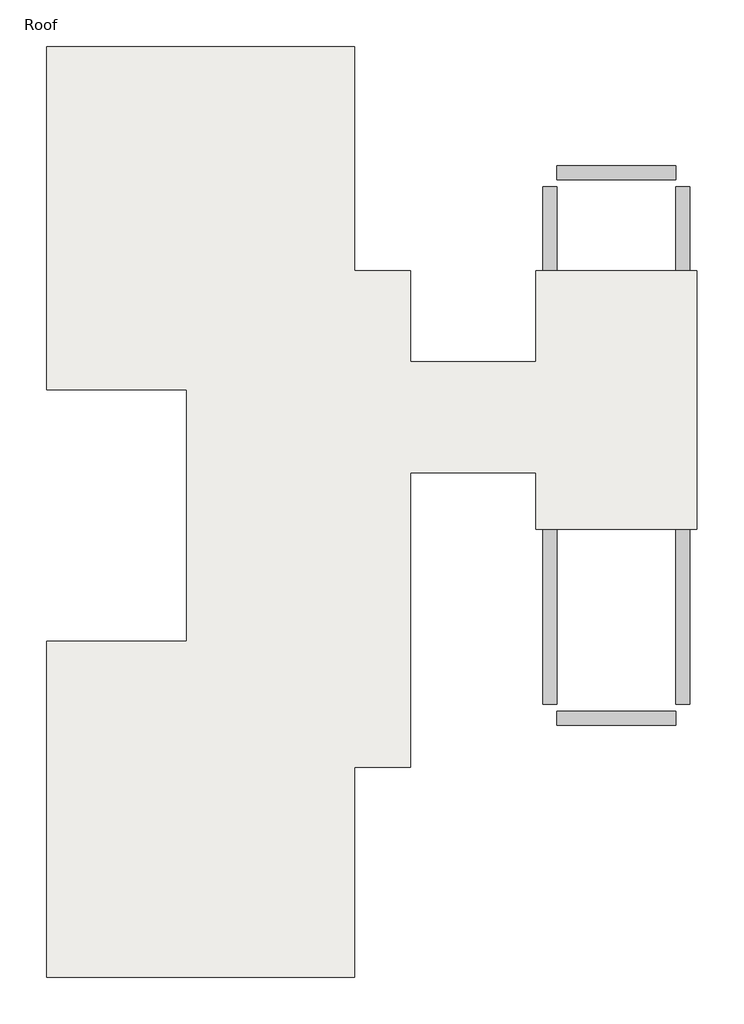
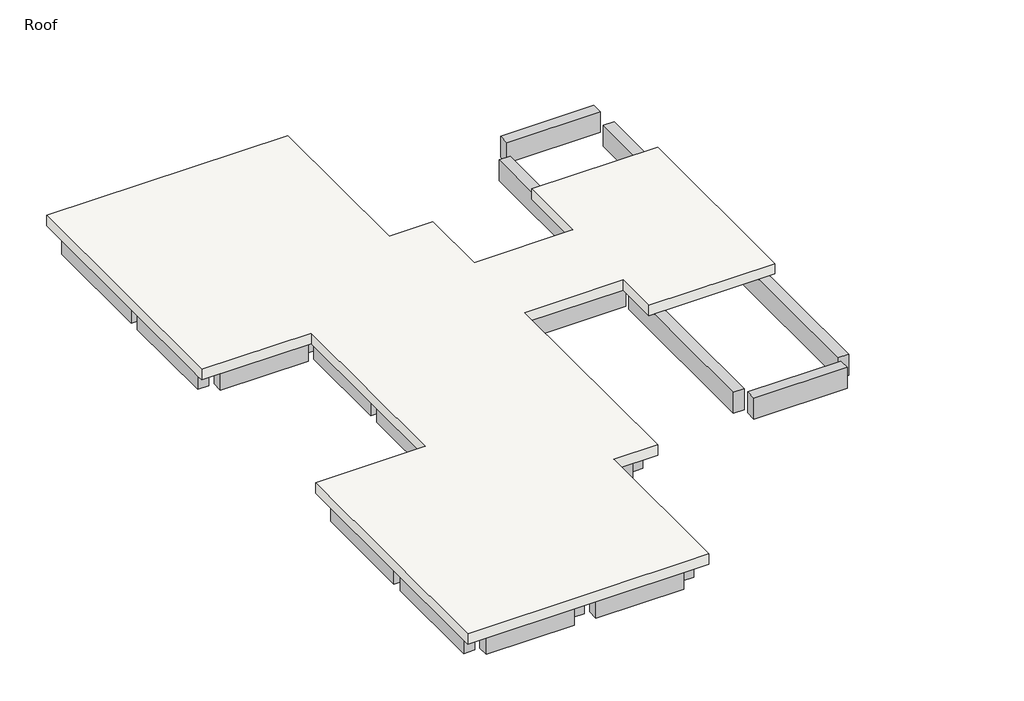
# One storey: 46 beams, 1 slab.
"""IFC4 building model written with IfcOpenShell, lengths in millimetres."""

from ifc_helpers import new_model, si_unit, frame, origin, place, context, project, spatial, polyline, outline, extrude, faceted_brep, element, save

model = new_model("IFC4")

# Units and contexts
model_context = context("Model", 3, world=origin())
ifc_project = project(units=[si_unit("LENGTHUNIT", "METRE", prefix="MILLI")], contexts=[model_context])

# Site, building, storey
site = spatial("IfcSite", under=ifc_project)
building = spatial("IfcBuilding", under=site)
storey = spatial("IfcBuildingStorey", under=building, Name="Roof", Elevation=7620.0)

# Beams
placement = place(None, origin())
element("IfcBeam", 1, ObjectType="Concrete-Rectangular Beam : 12 x 24", at=placement, inside=storey, context=model_context, shape_type="SweptSolid", body=[
    extrude(outline(polyline([(-15067.9554735, 14342.1867088), (-15067.9554735, 14646.9867088), (-12629.5554735, 14646.9867088), (-12629.5554735, 14342.1867088), (-15067.9554735, 14342.1867088)])), frame((0.0, 0.0, 6705.6), z_axis=(0.0, 0.0, 1.0), x_axis=(1.0, 0.0, 0.0)), (0.0, 0.0, 1.0), 609.6),
])
element("IfcBeam", 2, ObjectType="Concrete-Rectangular Beam : 12 x 24", at=placement, inside=storey, context=model_context, shape_type="SweptSolid", body=[
    extrude(outline(polyline([(-12019.9554735, 14342.1867088), (-12019.9554735, 14646.9867088), (-9581.5554735, 14646.9867088), (-9581.5554735, 14342.1867088), (-12019.9554735, 14342.1867088)])), frame((0.0, 0.0, 6705.6), z_axis=(0.0, 0.0, 1.0), x_axis=(1.0, 0.0, 0.0)), (0.0, 0.0, 1.0), 609.6),
])
element("IfcBeam", 3, ObjectType="Concrete-Rectangular Beam : 12 x 24", at=placement, inside=storey, context=model_context, shape_type="SweptSolid", body=[
    extrude(outline(polyline([(-9429.1554735, 14342.1867088), (-9124.3554735, 14342.1867088), (-9124.3554735, 10989.3867088), (-9429.1554735, 10989.3867088), (-9429.1554735, 14342.1867088)])), frame((0.0, 0.0, 6705.6), z_axis=(0.0, 0.0, 1.0), x_axis=(1.0, 0.0, 0.0)), (0.0, 0.0, 1.0), 609.6),
])
element("IfcBeam", 4, ObjectType="Concrete-Rectangular Beam : 12 x 24", at=placement, inside=storey, context=model_context, shape_type="SweptSolid", body=[
    extrude(outline(polyline([(-7905.1554735, 7788.9867088), (-8209.9554735, 7788.9867088), (-8209.9554735, 9465.3867088), (-7905.1554735, 9465.3867088), (-7905.1554735, 7788.9867088)])), frame((0.0, 0.0, 6705.6), z_axis=(0.0, 0.0, 1.0), x_axis=(1.0, 0.0, 0.0)), (0.0, 0.0, 1.0), 609.6),
])
element("IfcBeam", 5, ObjectType="Concrete-Rectangular Beam : 12 x 24", at=placement, inside=storey, context=model_context, shape_type="Brep", body=[
    faceted_brep([(-9429.1554735, 9770.1867088, 7315.2), (-9429.1554735, 9465.3867088, 7315.2), (-8362.3554735, 9465.3867088, 7315.2), (-8362.3554735, 9770.1867088, 7315.2), (-9124.3554735, 9770.1867088, 7315.2), (-9429.1554735, 9770.1867088, 6705.6), (-8362.3554735, 9770.1867088, 6705.6), (-9124.3554735, 9770.1867088, 6705.6), (-9429.1554735, 9465.3867088, 6705.6), (-8362.3554735, 9465.3867088, 6705.6)], [[[0, 1, 2, 3, 4]], [[5, 0, 4, 3, 6, 7]], [[8, 5, 7, 6, 9]], [[1, 8, 9, 2]], [[3, 2, 9, 6]], [[1, 0, 5, 8]]]),
])
element("IfcBeam", 6, ObjectType="Concrete-Rectangular Beam : 12 x 24", at=placement, inside=storey, context=model_context, shape_type="Brep", body=[
    faceted_brep([(-7905.1554735, 7484.1867088, 7315.2), (-8209.9554735, 7484.1867088, 7315.2), (-8209.9554735, 4740.9867088, 7315.2), (-7905.1554735, 4740.9867088, 7315.2), (-7905.1554735, 5655.3867088, 7315.2), (-7905.1554735, 5960.1867088, 7315.2), (-8209.9554735, 7484.1867088, 6705.6), (-8209.9554735, 4740.9867088, 6705.6), (-7905.1554735, 7484.1867088, 6705.6), (-7905.1554735, 5960.1867088, 6705.6), (-7905.1554735, 5655.3867088, 6705.6), (-7905.1554735, 4740.9867088, 6705.6)], [[[0, 1, 2, 3, 4, 5]], [[1, 6, 7, 2]], [[6, 8, 9, 10, 11, 7]], [[8, 0, 5, 4, 3, 11, 10, 9]], [[6, 1, 0, 8]], [[3, 2, 7, 11]]]),
])
element("IfcBeam", 7, ObjectType="Concrete-Rectangular Beam : 12 x 24", at=placement, inside=storey, context=model_context, shape_type="SweptSolid", body=[
    extrude(outline(polyline([(-8209.9554735, 4436.1867088), (-7905.1554735, 4436.1867088), (-7905.1554735, 1692.9867088), (-8209.9554735, 1692.9867088), (-8209.9554735, 4436.1867088)])), frame((0.0, 0.0, 6705.6), z_axis=(0.0, 0.0, 1.0), x_axis=(1.0, 0.0, 0.0)), (0.0, 0.0, 1.0), 609.6),
])
element("IfcBeam", 8, ObjectType="Concrete-Rectangular Beam : 12 x 24", at=placement, inside=storey, context=model_context, shape_type="SweptSolid", body=[
    extrude(outline(polyline([(-8209.9554735, 1388.1867088), (-7905.1554735, 1388.1867088), (-7905.1554735, -440.6132912), (-8209.9554735, -440.6132912), (-8209.9554735, 1388.1867088)])), frame((0.0, 0.0, 6705.6), z_axis=(0.0, 0.0, 1.0), x_axis=(1.0, 0.0, 0.0)), (0.0, 0.0, 1.0), 609.6),
])
element("IfcBeam", 9, ObjectType="Concrete-Rectangular Beam : 12 x 24", at=placement, inside=storey, context=model_context, shape_type="Brep", body=[
    faceted_brep([(-9429.1554735, -440.6132912, 7315.2), (-9429.1554735, -745.4132912, 7315.2), (-9124.3554735, -745.4132912, 7315.2), (-8362.3554735, -745.4132912, 7315.2), (-8362.3554735, -440.6132912, 7315.2), (-9429.1554735, -440.6132912, 6705.6), (-8362.3554735, -440.6132912, 6705.6), (-9429.1554735, -745.4132912, 6705.6), (-8362.3554735, -745.4132912, 6705.6), (-9124.3554735, -745.4132912, 6705.6)], [[[0, 1, 2, 3, 4]], [[5, 0, 4, 6]], [[7, 5, 6, 8, 9]], [[1, 7, 9, 8, 3, 2]], [[4, 3, 8, 6]], [[1, 0, 5, 7]]]),
])
element("IfcBeam", 10, ObjectType="Concrete-Rectangular Beam : 12 x 24", at=placement, inside=storey, context=model_context, shape_type="SweptSolid", body=[
    extrude(outline(polyline([(-9429.1554735, -745.4132912), (-9124.3554735, -745.4132912), (-9124.3554735, -1659.8132912), (-9429.1554735, -1659.8132912), (-9429.1554735, -745.4132912)])), frame((0.0, 0.0, 6705.6), z_axis=(0.0, 0.0, 1.0), x_axis=(1.0, 0.0, 0.0)), (0.0, 0.0, 1.0), 609.6),
])
element("IfcBeam", 11, ObjectType="Concrete-Rectangular Beam : 12 x 24", at=placement, inside=storey, context=model_context, shape_type="SweptSolid", body=[
    extrude(outline(polyline([(-9429.1554735, -1964.6132912), (-9124.3554735, -1964.6132912), (-9124.3554735, -5012.6132912), (-9429.1554735, -5012.6132912), (-9429.1554735, -1964.6132912)])), frame((0.0, 0.0, 6705.6), z_axis=(0.0, 0.0, 1.0), x_axis=(1.0, 0.0, 0.0)), (0.0, 0.0, 1.0), 609.6),
])
element("IfcBeam", 12, ObjectType="Concrete-Rectangular Beam : 12 x 24", at=placement, inside=storey, context=model_context, shape_type="SweptSolid", body=[
    extrude(outline(polyline([(-12019.9554735, -5317.4132912), (-12019.9554735, -5012.6132912), (-9581.5554735, -5012.6132912), (-9581.5554735, -5317.4132912), (-12019.9554735, -5317.4132912)])), frame((0.0, 0.0, 6705.6), z_axis=(0.0, 0.0, 1.0), x_axis=(1.0, 0.0, 0.0)), (0.0, 0.0, 1.0), 609.6),
])
element("IfcBeam", 13, ObjectType="Concrete-Rectangular Beam : 12 x 24", at=placement, inside=storey, context=model_context, shape_type="SweptSolid", body=[
    extrude(outline(polyline([(-12629.5554735, -5012.6132912), (-12629.5554735, -5317.4132912), (-15067.9554735, -5317.4132912), (-15067.9554735, -5012.6132912), (-12629.5554735, -5012.6132912)])), frame((0.0, 0.0, 6705.6), z_axis=(0.0, 0.0, 1.0), x_axis=(1.0, 0.0, 0.0)), (0.0, 0.0, 1.0), 609.6),
])
element("IfcBeam", 14, ObjectType="Concrete-Rectangular Beam : 12 x 24", at=placement, inside=storey, context=model_context, shape_type="SweptSolid", body=[
    extrude(outline(polyline([(-15220.3554735, -5012.6132912), (-15525.1554735, -5012.6132912), (-15525.1554735, -1964.6132912), (-15220.3554735, -1964.6132912), (-15220.3554735, -5012.6132912)])), frame((0.0, 0.0, 6705.6), z_axis=(0.0, 0.0, 1.0), x_axis=(1.0, 0.0, 0.0)), (0.0, 0.0, 1.0), 609.6),
])
element("IfcBeam", 15, ObjectType="Concrete-Rectangular Beam : 12 x 24", at=placement, inside=storey, context=model_context, shape_type="SweptSolid", body=[
    extrude(outline(polyline([(-15220.3554735, -1659.8132912), (-15525.1554735, -1659.8132912), (-15525.1554735, 1388.1867088), (-15220.3554735, 1388.1867088), (-15220.3554735, -1659.8132912)])), frame((0.0, 0.0, 6705.6), z_axis=(0.0, 0.0, 1.0), x_axis=(1.0, 0.0, 0.0)), (0.0, 0.0, 1.0), 609.6),
])
element("IfcBeam", 16, ObjectType="Concrete-Rectangular Beam : 12 x 24", at=placement, inside=storey, context=model_context, shape_type="SweptSolid", body=[
    extrude(outline(polyline([(-15525.1554735, 14342.1867088), (-15220.3554735, 14342.1867088), (-15220.3554735, 10989.3867088), (-15525.1554735, 10989.3867088), (-15525.1554735, 14342.1867088)])), frame((0.0, 0.0, 6705.6), z_axis=(0.0, 0.0, 1.0), x_axis=(1.0, 0.0, 0.0)), (0.0, 0.0, 1.0), 609.6),
])
element("IfcBeam", 17, ObjectType="Concrete-Rectangular Beam : 12 x 24", at=placement, inside=storey, context=model_context, shape_type="SweptSolid", body=[
    extrude(outline(polyline([(-12477.1554735, 14342.1867088), (-12172.3554735, 14342.1867088), (-12172.3554735, 10989.3867088), (-12477.1554735, 10989.3867088), (-12477.1554735, 14342.1867088)])), frame((0.0, 0.0, 6705.6), z_axis=(0.0, 0.0, 1.0), x_axis=(1.0, 0.0, 0.0)), (0.0, 0.0, 1.0), 609.6),
])
element("IfcBeam", 18, ObjectType="Concrete-Rectangular Beam : 12 x 24", at=placement, inside=storey, context=model_context, shape_type="SweptSolid", body=[
    extrude(outline(polyline([(-15067.9554735, 10684.5867088), (-15067.9554735, 10989.3867088), (-12629.5554735, 10989.3867088), (-12629.5554735, 10684.5867088), (-15067.9554735, 10684.5867088)])), frame((0.0, 0.0, 6705.6), z_axis=(0.0, 0.0, 1.0), x_axis=(1.0, 0.0, 0.0)), (0.0, 0.0, 1.0), 609.6),
])
element("IfcBeam", 19, ObjectType="Concrete-Rectangular Beam : 12 x 24", at=placement, inside=storey, context=model_context, shape_type="SweptSolid", body=[
    extrude(outline(polyline([(-12477.1554735, 10836.9867088), (-12172.3554735, 10836.9867088), (-12172.3554735, 7788.9867088), (-12477.1554735, 7788.9867088), (-12477.1554735, 10836.9867088)])), frame((0.0, 0.0, 6705.6), z_axis=(0.0, 0.0, 1.0), x_axis=(1.0, 0.0, 0.0)), (0.0, 0.0, 1.0), 609.6),
])
element("IfcBeam", 20, ObjectType="Concrete-Rectangular Beam : 12 x 24", at=placement, inside=storey, context=model_context, shape_type="SweptSolid", body=[
    extrude(outline(polyline([(-12477.1554735, 7484.1867088), (-12172.3554735, 7484.1867088), (-12172.3554735, 4740.9867088), (-12477.1554735, 4740.9867088), (-12477.1554735, 7484.1867088)])), frame((0.0, 0.0, 6705.6), z_axis=(0.0, 0.0, 1.0), x_axis=(1.0, 0.0, 0.0)), (0.0, 0.0, 1.0), 609.6),
])
element("IfcBeam", 21, ObjectType="Concrete-Rectangular Beam : 12 x 24", at=placement, inside=storey, context=model_context, shape_type="SweptSolid", body=[
    extrude(outline(polyline([(-12477.1554735, 4436.1867088), (-12172.3554735, 4436.1867088), (-12172.3554735, 1692.9867088), (-12477.1554735, 1692.9867088), (-12477.1554735, 4436.1867088)])), frame((0.0, 0.0, 6705.6), z_axis=(0.0, 0.0, 1.0), x_axis=(1.0, 0.0, 0.0)), (0.0, 0.0, 1.0), 609.6),
])
element("IfcBeam", 22, ObjectType="Concrete-Rectangular Beam : 12 x 24", at=placement, inside=storey, context=model_context, shape_type="SweptSolid", body=[
    extrude(outline(polyline([(-12477.1554735, 1388.1867088), (-12172.3554735, 1388.1867088), (-12172.3554735, -1659.8132912), (-12477.1554735, -1659.8132912), (-12477.1554735, 1388.1867088)])), frame((0.0, 0.0, 6705.6), z_axis=(0.0, 0.0, 1.0), x_axis=(1.0, 0.0, 0.0)), (0.0, 0.0, 1.0), 609.6),
])
element("IfcBeam", 23, ObjectType="Concrete-Rectangular Beam : 12 x 24", at=placement, inside=storey, context=model_context, shape_type="SweptSolid", body=[
    extrude(outline(polyline([(-12172.3554735, -5012.6132912), (-12477.1554735, -5012.6132912), (-12477.1554735, -1964.6132912), (-12172.3554735, -1964.6132912), (-12172.3554735, -5012.6132912)])), frame((0.0, 0.0, 6705.6), z_axis=(0.0, 0.0, 1.0), x_axis=(1.0, 0.0, 0.0)), (0.0, 0.0, 1.0), 609.6),
])
element("IfcBeam", 24, ObjectType="Concrete-Rectangular Beam : 12 x 24", at=placement, inside=storey, context=model_context, shape_type="SweptSolid", body=[
    extrude(outline(polyline([(-15525.1554735, 10684.5867088), (-15220.3554735, 10684.5867088), (-15220.3554735, 7788.9867088), (-15525.1554735, 7788.9867088), (-15525.1554735, 10684.5867088)])), frame((0.0, 0.0, 6705.6), z_axis=(0.0, 0.0, 1.0), x_axis=(1.0, 0.0, 0.0)), (0.0, 0.0, 1.0), 609.6),
])
element("IfcBeam", 25, ObjectType="Concrete-Rectangular Beam : 12 x 24", at=placement, inside=storey, context=model_context, shape_type="SweptSolid", body=[
    extrude(outline(polyline([(-15067.9554735, 7484.1867088), (-15067.9554735, 7788.9867088), (-12629.5554735, 7788.9867088), (-12629.5554735, 7484.1867088), (-15067.9554735, 7484.1867088)])), frame((0.0, 0.0, 6705.6), z_axis=(0.0, 0.0, 1.0), x_axis=(1.0, 0.0, 0.0)), (0.0, 0.0, 1.0), 609.6),
])
element("IfcBeam", 26, ObjectType="Concrete-Rectangular Beam : 12 x 24", at=placement, inside=storey, context=model_context, shape_type="SweptSolid", body=[
    extrude(outline(polyline([(-12019.9554735, 1388.1867088), (-12019.9554735, 1692.9867088), (-8362.3554735, 1692.9867088), (-8362.3554735, 1388.1867088), (-12019.9554735, 1388.1867088)])), frame((0.0, 0.0, 6705.6), z_axis=(0.0, 0.0, 1.0), x_axis=(1.0, 0.0, 0.0)), (0.0, 0.0, 1.0), 609.6),
])
element("IfcBeam", 27, ObjectType="Concrete-Rectangular Beam : 12 x 24", at=placement, inside=storey, context=model_context, shape_type="SweptSolid", body=[
    extrude(outline(polyline([(-4552.3554735, 5655.3867088), (-4552.3554735, 5960.1867088), (-1961.5554735, 5960.1867088), (-1961.5554735, 5655.3867088), (-4552.3554735, 5655.3867088)])), frame((0.0, 0.0, 6705.6), z_axis=(0.0, 0.0, 1.0), x_axis=(1.0, 0.0, 0.0)), (0.0, 0.0, 1.0), 609.6),
])
element("IfcBeam", 28, ObjectType="Concrete-Rectangular Beam : 12 x 24", at=placement, inside=storey, context=model_context, shape_type="SweptSolid", body=[
    extrude(outline(polyline([(-4857.1554735, 7788.9867088), (-4857.1554735, 7484.1867088), (-7752.7554735, 7484.1867088), (-7752.7554735, 7788.9867088), (-4857.1554735, 7788.9867088)])), frame((0.0, 0.0, 6705.6), z_axis=(0.0, 0.0, 1.0), x_axis=(1.0, 0.0, 0.0)), (0.0, 0.0, 1.0), 609.6),
])
element("IfcBeam", 29, ObjectType="Concrete-Rectangular Beam : 12 x 24", at=placement, inside=storey, context=model_context, shape_type="SweptSolid", body=[
    extrude(outline(polyline([(-4857.1554735, 5960.1867088), (-4857.1554735, 5655.3867088), (-7905.1554735, 5655.3867088), (-7905.1554735, 5960.1867088), (-4857.1554735, 5960.1867088)])), frame((0.0, 0.0, 6705.6), z_axis=(0.0, 0.0, 1.0), x_axis=(1.0, 0.0, 0.0)), (0.0, 0.0, 1.0), 609.6),
])
element("IfcBeam", 30, ObjectType="Concrete-Rectangular Beam : 12 x 24", at=placement, inside=storey, context=model_context, shape_type="SweptSolid", body=[
    extrude(outline(polyline([(-4552.3554735, 7484.1867088), (-4552.3554735, 7788.9867088), (-1961.5554735, 7788.9867088), (-1961.5554735, 7484.1867088), (-4552.3554735, 7484.1867088)])), frame((0.0, 0.0, 6705.6), z_axis=(0.0, 0.0, 1.0), x_axis=(1.0, 0.0, 0.0)), (0.0, 0.0, 1.0), 609.6),
])
element("IfcBeam", 31, ObjectType="Concrete-Rectangular Beam : 12 x 24", at=placement, inside=storey, context=model_context, shape_type="SweptSolid", body=[
    extrude(outline(polyline([(-12477.1554735, 10684.5867088), (-12172.3554735, 10684.5867088), (-12172.3554735, 7788.9867088), (-12477.1554735, 7788.9867088), (-12477.1554735, 10684.5867088)])), frame((0.0, 0.0, 6705.6), z_axis=(0.0, 0.0, 1.0), x_axis=(1.0, 0.0, 0.0)), (0.0, 0.0, 1.0), 609.6),
])
element("IfcBeam", 32, ObjectType="Concrete-Rectangular Beam : 12 x 24", at=placement, inside=storey, context=model_context, shape_type="SweptSolid", body=[
    extrude(outline(polyline([(-12019.9554735, 10684.5867088), (-12019.9554735, 10989.3867088), (-9581.5554735, 10989.3867088), (-9581.5554735, 10684.5867088), (-12019.9554735, 10684.5867088)])), frame((0.0, 0.0, 6705.6), z_axis=(0.0, 0.0, 1.0), x_axis=(1.0, 0.0, 0.0)), (0.0, 0.0, 1.0), 609.6),
])
element("IfcBeam", 33, ObjectType="Concrete-Rectangular Beam : 12 x 24", at=placement, inside=storey, context=model_context, shape_type="SweptSolid", body=[
    extrude(outline(polyline([(-12629.5554735, -1659.8132912), (-12629.5554735, -1964.6132912), (-15067.9554735, -1964.6132912), (-15067.9554735, -1659.8132912), (-12629.5554735, -1659.8132912)])), frame((0.0, 0.0, 6705.6), z_axis=(0.0, 0.0, 1.0), x_axis=(1.0, 0.0, 0.0)), (0.0, 0.0, 1.0), 609.6),
])
element("IfcBeam", 34, ObjectType="Concrete-Rectangular Beam : 12 x 24", at=placement, inside=storey, context=model_context, shape_type="SweptSolid", body=[
    extrude(outline(polyline([(-12629.5554735, 1692.9867088), (-12629.5554735, 1388.1867088), (-15067.9554735, 1388.1867088), (-15067.9554735, 1692.9867088), (-12629.5554735, 1692.9867088)])), frame((0.0, 0.0, 6705.6), z_axis=(0.0, 0.0, 1.0), x_axis=(1.0, 0.0, 0.0)), (0.0, 0.0, 1.0), 609.6),
])
element("IfcBeam", 35, ObjectType="Concrete-Rectangular Beam : 12 x 24", at=placement, inside=storey, context=model_context, shape_type="SweptSolid", body=[
    extrude(outline(polyline([(-12019.9554735, -1964.6132912), (-12019.9554735, -1659.8132912), (-9581.5554735, -1659.8132912), (-9581.5554735, -1964.6132912), (-12019.9554735, -1964.6132912)])), frame((0.0, 0.0, 6705.6), z_axis=(0.0, 0.0, 1.0), x_axis=(1.0, 0.0, 0.0)), (0.0, 0.0, 1.0), 609.6),
])
element("IfcBeam", 36, ObjectType="Concrete-Rectangular Beam : 12 x 24", at=placement, inside=storey, context=model_context, shape_type="SweptSolid", body=[
    extrude(outline(polyline([(-9124.3554735, 9770.1867088), (-9429.1554735, 9770.1867088), (-9429.1554735, 10684.5867088), (-9124.3554735, 10684.5867088), (-9124.3554735, 9770.1867088)])), frame((0.0, 0.0, 6705.6), z_axis=(0.0, 0.0, 1.0), x_axis=(1.0, 0.0, 0.0)), (0.0, 0.0, 1.0), 609.6),
])
element("IfcBeam", 37, ObjectType="Concrete-Rectangular Beam : 12 x 24", at=placement, inside=storey, context=model_context, shape_type="SweptSolid", body=[
    extrude(outline(polyline([(-8362.3554735, 7788.9867088), (-8362.3554735, 7484.1867088), (-12019.9554735, 7484.1867088), (-12019.9554735, 7788.9867088), (-8362.3554735, 7788.9867088)])), frame((0.0, 0.0, 6705.6), z_axis=(0.0, 0.0, 1.0), x_axis=(1.0, 0.0, 0.0)), (0.0, 0.0, 1.0), 609.6),
])
element("IfcBeam", 38, ObjectType="Concrete-Rectangular Beam : 12 x 24", at=placement, inside=storey, context=model_context, shape_type="SweptSolid", body=[
    extrude(outline(polyline([(-12019.9554735, 4436.1867088), (-12019.9554735, 4740.9867088), (-8362.3554735, 4740.9867088), (-8362.3554735, 4436.1867088), (-12019.9554735, 4436.1867088)])), frame((0.0, 0.0, 6705.6), z_axis=(0.0, 0.0, 1.0), x_axis=(1.0, 0.0, 0.0)), (0.0, 0.0, 1.0), 609.6),
])
element("IfcBeam", 39, ObjectType="Concrete-Rectangular Beam : 12 x 24", at=placement, inside=storey, context=model_context, shape_type="SweptSolid", body=[
    extrude(outline(polyline([(-4857.1554735, 5502.9867088), (-4552.3554735, 5502.9867088), (-4552.3554735, 473.7867088), (-4857.1554735, 473.7867088), (-4857.1554735, 5502.9867088)])), frame((0.0, 0.0, 6705.6), z_axis=(0.0, 0.0, 1.0), x_axis=(1.0, 0.0, 0.0)), (0.0, 0.0, 1.0), 609.6),
])
element("IfcBeam", 40, ObjectType="Concrete-Rectangular Beam : 12 x 24", at=placement, inside=storey, context=model_context, shape_type="SweptSolid", body=[
    extrude(outline(polyline([(-4552.3554735, 16.5867088), (-4552.3554735, 321.3867088), (-1961.5554735, 321.3867088), (-1961.5554735, 16.5867088), (-4552.3554735, 16.5867088)])), frame((0.0, 0.0, 6705.6), z_axis=(0.0, 0.0, 1.0), x_axis=(1.0, 0.0, 0.0)), (0.0, 0.0, 1.0), 609.6),
])
element("IfcBeam", 41, ObjectType="Concrete-Rectangular Beam : 12 x 24", at=placement, inside=storey, context=model_context, shape_type="SweptSolid", body=[
    extrude(outline(polyline([(-1656.7554735, 473.7867088), (-1961.5554735, 473.7867088), (-1961.5554735, 5502.9867088), (-1656.7554735, 5502.9867088), (-1656.7554735, 473.7867088)])), frame((0.0, 0.0, 6705.6), z_axis=(0.0, 0.0, 1.0), x_axis=(1.0, 0.0, 0.0)), (0.0, 0.0, 1.0), 609.6),
])
element("IfcBeam", 42, ObjectType="Concrete-Rectangular Beam : 12 x 24", at=placement, inside=storey, context=model_context, shape_type="SweptSolid", body=[
    extrude(outline(polyline([(-4857.1554735, 11751.3867088), (-4552.3554735, 11751.3867088), (-4552.3554735, 7941.3867088), (-4857.1554735, 7941.3867088), (-4857.1554735, 11751.3867088)])), frame((0.0, 0.0, 6705.6), z_axis=(0.0, 0.0, 1.0), x_axis=(1.0, 0.0, 0.0)), (0.0, 0.0, 1.0), 609.6),
])
element("IfcBeam", 43, ObjectType="Concrete-Rectangular Beam : 12 x 24", at=placement, inside=storey, context=model_context, shape_type="SweptSolid", body=[
    extrude(outline(polyline([(-4552.3554735, 11903.7867088), (-4552.3554735, 12208.5867088), (-1961.5554735, 12208.5867088), (-1961.5554735, 11903.7867088), (-4552.3554735, 11903.7867088)])), frame((0.0, 0.0, 7010.4), z_axis=(0.0, 0.0, 1.0), x_axis=(1.0, 0.0, 0.0)), (0.0, 0.0, 1.0), 609.6),
])
element("IfcBeam", 44, ObjectType="Concrete-Rectangular Beam : 12 x 24", at=placement, inside=storey, context=model_context, shape_type="SweptSolid", body=[
    extrude(outline(polyline([(-1961.5554735, 11751.3867088), (-1656.7554735, 11751.3867088), (-1656.7554735, 7941.3867088), (-1961.5554735, 7941.3867088), (-1961.5554735, 11751.3867088)])), frame((0.0, 0.0, 6705.6), z_axis=(0.0, 0.0, 1.0), x_axis=(1.0, 0.0, 0.0)), (0.0, 0.0, 1.0), 609.6),
])
element("IfcBeam", 45, ObjectType="Concrete-Rectangular Beam : 12 x 24", at=placement, inside=storey, context=model_context, shape_type="SweptSolid", body=[
    extrude(outline(polyline([(-4857.1554735, 7331.7867088), (-4552.3554735, 7331.7867088), (-4552.3554735, 6112.5867088), (-4857.1554735, 6112.5867088), (-4857.1554735, 7331.7867088)])), frame((0.0, 0.0, 6705.6), z_axis=(0.0, 0.0, 1.0), x_axis=(1.0, 0.0, 0.0)), (0.0, 0.0, 1.0), 609.6),
])
element("IfcBeam", 46, ObjectType="Concrete-Rectangular Beam : 12 x 24", at=placement, inside=storey, context=model_context, shape_type="SweptSolid", body=[
    extrude(outline(polyline([(-1961.5554735, 7331.7867088), (-1656.7554735, 7331.7867088), (-1656.7554735, 6112.5867088), (-1961.5554735, 6112.5867088), (-1961.5554735, 7331.7867088)])), frame((0.0, 0.0, 6705.6), z_axis=(0.0, 0.0, 1.0), x_axis=(1.0, 0.0, 0.0)), (0.0, 0.0, 1.0), 609.6),
])

# Slab
element("IfcSlab", 47, ObjectType="Generic - 12\"", at=placement, inside=storey, context=model_context, shape_type="Brep", body=[
    faceted_brep([(-8971.9554735, 14799.3867088, 7315.2), (-8971.9554735, 14646.9867088, 7315.2), (-8971.9554735, 14342.1867088, 7315.2), (-8971.9554735, 10989.3867088, 7315.2), (-8971.9554735, 10684.5867088, 7315.2), (-8971.9554735, 9922.5867088, 7315.2), (-7752.7554735, 9922.5867088, 7315.2), (-7752.7554735, 9770.1867088, 7315.2), (-7752.7554735, 9465.3867088, 7315.2), (-7752.7554735, 7941.3867088, 7315.2), (-5009.5554735, 7941.3867088, 7315.2), (-5009.5554735, 9922.5867088, 7315.2), (-1504.3554735, 9922.5867088, 7315.2), (-1504.3554735, 4283.7867088, 7315.2), (-5009.5554735, 4283.7867088, 7315.2), (-5009.5554735, 5516.5265407, 7315.2), (-7752.7554735, 5516.5265407, 7315.2), (-7752.7554735, 4740.9867088, 7315.2), (-7752.7554735, 4436.1867088, 7315.2), (-7752.7554735, 1692.9867088, 7315.2), (-7752.7554735, 1388.1867088, 7315.2), (-7752.7554735, -440.6132912, 7315.2), (-7752.7554735, -745.4132912, 7315.2), (-7752.7554735, -897.8132912, 7315.2), (-8971.9554735, -897.8132912, 7315.2), (-8971.9554735, -1659.8132912, 7315.2), (-8971.9554735, -1964.6132912, 7315.2), (-8971.9554735, -5012.6132912, 7315.2), (-8971.9554735, -5317.4132912, 7315.2), (-8971.9554735, -5469.8132912, 7315.2), (-15677.5554735, -5469.8132912, 7315.2), (-15677.5554735, -5317.4132912, 7315.2), (-15677.5554735, -5012.6132912, 7315.2), (-15677.5554735, -1964.6132912, 7315.2), (-15677.5554735, -1659.8132912, 7315.2), (-15677.5554735, 1388.1867088, 7315.2), (-15677.5554735, 1692.9867088, 7315.2), (-15677.5554735, 1845.3867088, 7315.2), (-12629.5554735, 1845.3867088, 7315.2), (-12629.5554735, 4436.1867088, 7315.2), (-12629.5554735, 4740.9867088, 7315.2), (-12629.5554735, 7331.7867088, 7315.2), (-15677.5554735, 7331.7867088, 7315.2), (-15677.5554735, 7484.1867088, 7315.2), (-15677.5554735, 7788.9867088, 7315.2), (-15677.5554735, 10684.5867088, 7315.2), (-15677.5554735, 10989.3867088, 7315.2), (-15677.5554735, 14342.1867088, 7315.2), (-15677.5554735, 14646.9867088, 7315.2), (-15677.5554735, 14799.3867088, 7315.2), (-8971.9554735, 14799.3867088, 7620.0), (-15677.5554735, 14799.3867088, 7620.0), (-15677.5554735, 7331.7867088, 7620.0), (-12629.5554735, 7331.7867088, 7620.0), (-12629.5554735, 1845.3867088, 7620.0), (-15677.5554735, 1845.3867088, 7620.0), (-15677.5554735, -5469.8132912, 7620.0), (-8971.9554735, -5469.8132912, 7620.0), (-8971.9554735, -897.8132912, 7620.0), (-7752.7554735, -897.8132912, 7620.0), (-7752.7554735, 5516.5265407, 7620.0), (-5009.5554735, 5516.5265407, 7620.0), (-5009.5554735, 4283.7867088, 7620.0), (-1504.3554735, 4283.7867088, 7620.0), (-1504.3554735, 9922.5867088, 7620.0), (-5009.5554735, 9922.5867088, 7620.0), (-5009.5554735, 7941.3867088, 7620.0), (-7752.7554735, 7941.3867088, 7620.0), (-7752.7554735, 9922.5867088, 7620.0), (-8971.9554735, 9922.5867088, 7620.0)], [[[0, 1, 2, 3, 4, 5, 6, 7, 8, 9, 10, 11, 12, 13, 14, 15, 16, 17, 18, 19, 20, 21, 22, 23, 24, 25, 26, 27, 28, 29, 30, 31, 32, 33, 34, 35, 36, 37, 38, 39, 40, 41, 42, 43, 44, 45, 46, 47, 48, 49]], [[50, 51, 52, 53, 54, 55, 56, 57, 58, 59, 60, 61, 62, 63, 64, 65, 66, 67, 68, 69]], [[5, 4, 3, 2, 1, 0, 50, 69]], [[6, 5, 69, 68]], [[9, 8, 7, 6, 68, 67]], [[10, 9, 67, 66]], [[11, 10, 66, 65]], [[12, 11, 65, 64]], [[13, 12, 64, 63]], [[14, 13, 63, 62]], [[15, 14, 62, 61]], [[16, 15, 61, 60]], [[23, 22, 21, 20, 19, 18, 17, 16, 60, 59]], [[24, 23, 59, 58]], [[29, 28, 27, 26, 25, 24, 58, 57]], [[30, 29, 57, 56]], [[37, 36, 35, 34, 33, 32, 31, 30, 56, 55]], [[38, 37, 55, 54]], [[41, 40, 39, 38, 54, 53]], [[42, 41, 53, 52]], [[49, 48, 47, 46, 45, 44, 43, 42, 52, 51]], [[0, 49, 51, 50]]]),
])

save(model, "model.ifc")
